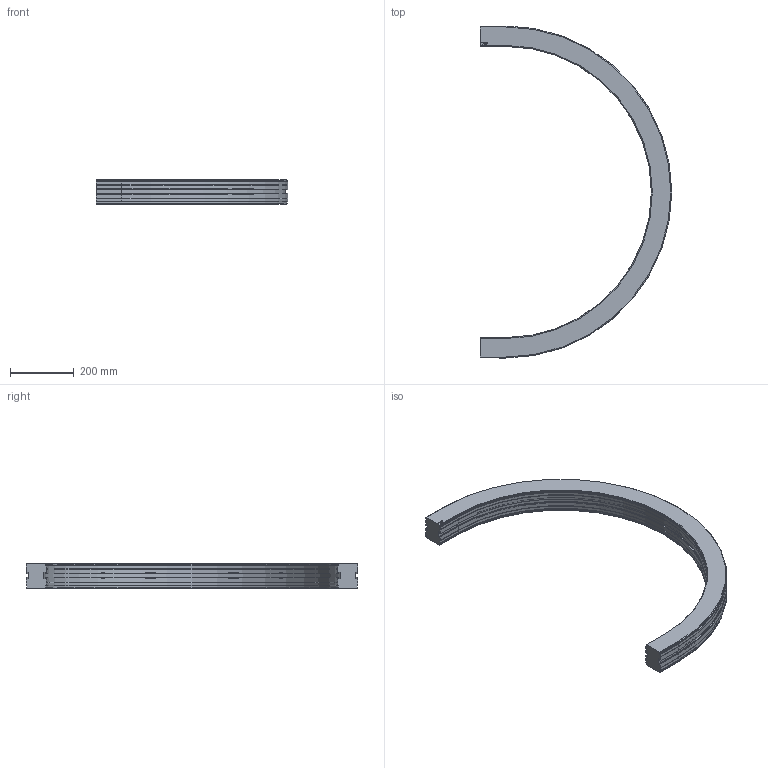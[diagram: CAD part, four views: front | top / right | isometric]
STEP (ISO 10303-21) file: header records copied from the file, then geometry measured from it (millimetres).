
FILE_DESCRIPTION((''),'2;1');
FILE_NAME('C:\Vault Klient\Projekt\Koncept konstruktion\Serie 620 Balk\620-5320.stp','2009-11-26T15:14:13',('Mathias'),(''),'Autodesk Inventor 2010','Autodesk Inventor 2010','');
FILE_SCHEMA(('AUTOMOTIVE_DESIGN { 1 0 10303 214 1 1 1 1 }'));
Length unit declared in the file: millimetre
Products named in the file (1): 620-5320
Bounding box: 601 x 1042 x 78 mm (x, y, z)
Volume: 7888246.1 mm3; surface area: 620824.1 mm2
Topology: 1 solids, 1 shells, 169 faces, 446 edges, 284 vertices
Faces by surface type: plane 109, cylinder 30, bspline 14, cone 12, torus 4
Entity records: 5295 total; most frequent: CARTESIAN_POINT 1094, ORIENTED_EDGE 892, DIRECTION 802, EDGE_CURVE 446, VECTOR 346, LINE 346, VERTEX_POINT 284, AXIS2_PLACEMENT_3D 228
